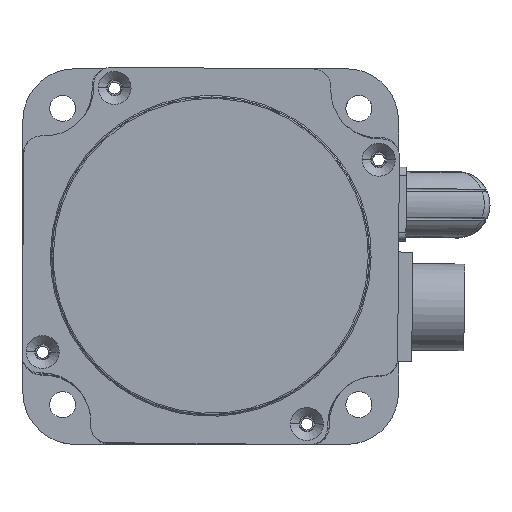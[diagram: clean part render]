
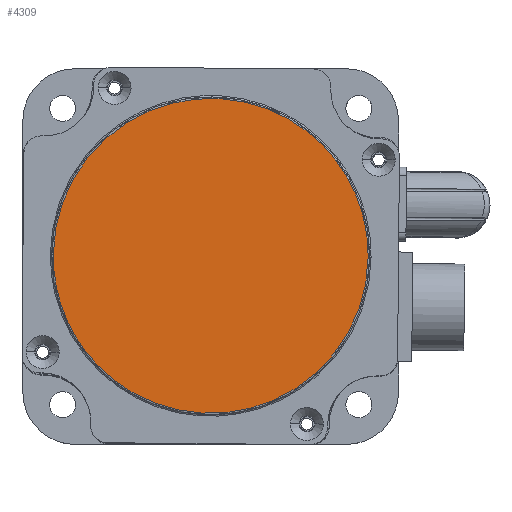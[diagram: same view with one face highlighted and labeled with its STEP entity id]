
A CAD part, top view. The second image highlights one B-rep face of the part: STEP entity #4309.
In plain terms, the highlighted planar face has unit normal (0, 0, 1).
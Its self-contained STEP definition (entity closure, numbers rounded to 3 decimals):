
#4112 = EDGE_CURVE ( 'NONE', #4192, #4113, #13115, .T. ) ;
#4113 = VERTEX_POINT ( 'NONE', #13167 ) ;
#4192 = VERTEX_POINT ( 'NONE', #13430 ) ;
#4233 = EDGE_CURVE ( 'NONE', #4113, #4192, #13520, .T. ) ;
#4234 = ORIENTED_EDGE ( 'NONE', *, *, #4112, .F. ) ;
#4238 = EDGE_LOOP ( 'NONE', ( #4310, #4234 ) ) ;
#4309 = ADVANCED_FACE ( 'NONE', ( #13653 ), #13652, .F. ) ;
#4310 = ORIENTED_EDGE ( 'NONE', *, *, #4233, .F. ) ;
#13115 =( BOUNDED_CURVE ( )  B_SPLINE_CURVE ( 3, ( #13166, #13165, #13164, #13163 ),
 .UNSPECIFIED., .F., .F. ) 
 B_SPLINE_CURVE_WITH_KNOTS ( ( 4, 4 ),
 ( 0., 1. ),
 .UNSPECIFIED. ) 
 CURVE ( )  GEOMETRIC_REPRESENTATION_ITEM ( )  RATIONAL_B_SPLINE_CURVE ( ( 1., 0.333, 0.333, 1. ) ) 
 REPRESENTATION_ITEM ( '' )  );
#13163 = CARTESIAN_POINT ( 'NONE',  ( -29.269, -39.199, 152. ) ) ;
#13164 = CARTESIAN_POINT ( 'NONE',  ( -30.253, -148.195, 152. ) ) ;
#13165 = CARTESIAN_POINT ( 'NONE',  ( 78.742, -149.179, 152. ) ) ;
#13166 = CARTESIAN_POINT ( 'NONE',  ( 79.727, -40.183, 152. ) ) ;
#13167 = CARTESIAN_POINT ( 'NONE',  ( -29.269, -39.199, 152. ) ) ;
#13430 = CARTESIAN_POINT ( 'NONE',  ( 79.727, -40.183, 152. ) ) ;
#13520 =( BOUNDED_CURVE ( )  B_SPLINE_CURVE ( 3, ( #13543, #13542, #13541, #13540 ),
 .UNSPECIFIED., .F., .T. ) 
 B_SPLINE_CURVE_WITH_KNOTS ( ( 4, 4 ),
 ( 0., 1. ),
 .UNSPECIFIED. ) 
 CURVE ( )  GEOMETRIC_REPRESENTATION_ITEM ( )  RATIONAL_B_SPLINE_CURVE ( ( 1., 0.333, 0.333, 1. ) ) 
 REPRESENTATION_ITEM ( '' )  );
#13540 = CARTESIAN_POINT ( 'NONE',  ( 79.727, -40.183, 152. ) ) ;
#13541 = CARTESIAN_POINT ( 'NONE',  ( 80.711, 68.812, 152. ) ) ;
#13542 = CARTESIAN_POINT ( 'NONE',  ( -28.285, 69.797, 152. ) ) ;
#13543 = CARTESIAN_POINT ( 'NONE',  ( -29.269, -39.199, 152. ) ) ;
#13647 = DIRECTION ( 'NONE',  ( -1., 0.009, 0. ) ) ;
#13648 = DIRECTION ( 'NONE',  ( 0., 0., -1. ) ) ;
#13649 = AXIS2_PLACEMENT_3D ( 'NONE', #13651, #13648, #13647 ) ;
#13651 = CARTESIAN_POINT ( 'NONE',  ( 89.639, -105.275, 152. ) ) ;
#13652 = PLANE ( 'NONE',  #13649 ) ;
#13653 = FACE_OUTER_BOUND ( 'NONE', #4238, .T. ) ;
